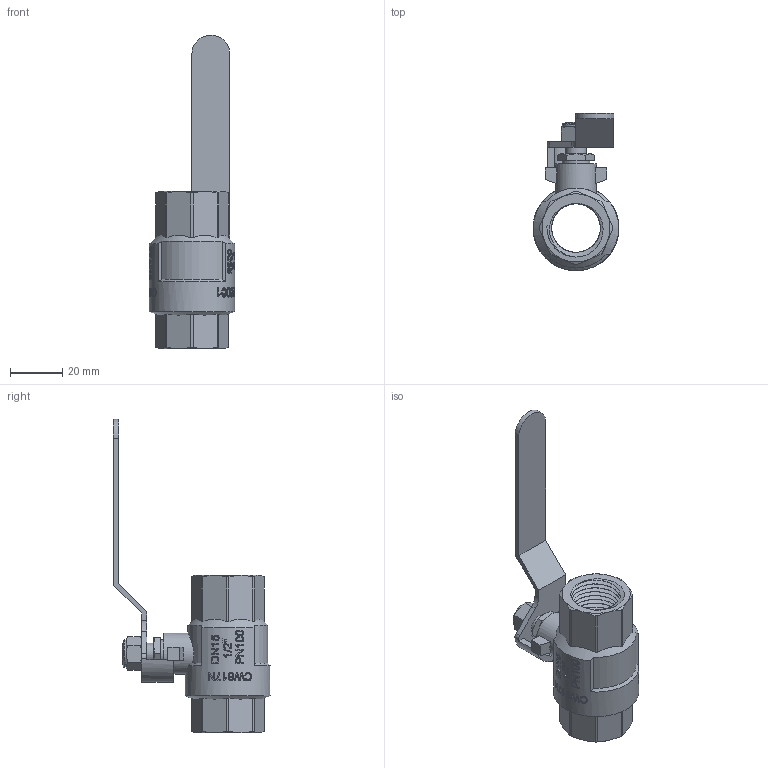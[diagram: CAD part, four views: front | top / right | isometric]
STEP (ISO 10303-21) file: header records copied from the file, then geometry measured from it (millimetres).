
FILE_DESCRIPTION(/* description */ (''),/* implementation_level */ '2;1');
FILE_NAME(/* name */ 'F:\Артём\00000\Работа удаленка\0\B\VT.314.N.04.stp',/* time_stamp */ '2021-02-03T15:56:29+03:00',/* author */ ('almis'),/* organization */ (''),/* preprocessor_version */ 'ST-DEVELOPER v18',/* originating_system */ 'Autodesk Inventor 2020',/* authorisation */ '');
FILE_SCHEMA (('AUTOMOTIVE_DESIGN { 1 0 10303 214 3 1 1 }'));
Length unit declared in the file: millimetre
Products named in the file (1): VT.314_ВВ_1%2
Bounding box: 32.7 x 59.89 x 119.54 mm (x, y, z)
Volume: 30228.5 mm3; surface area: 17696.7 mm2
Topology: 1 solids, 1 shells, 593 faces, 1580 edges, 1044 vertices
Faces by surface type: bspline 231, plane 211, cylinder 120, cone 28, torus 3
Full cylindrical faces by diameter (mm): 7.923 x1, 8 x1, 10.392 x1, 10.535 x1, 15.676 x1, 18.6 x15, 22.2 x16, 32.5 x1
Entity records: 28267 total; most frequent: CARTESIAN_POINT 15150, ORIENTED_EDGE 3160, DIRECTION 1959, EDGE_CURVE 1580, VERTEX_POINT 1044, LINE 695, VECTOR 695, EDGE_LOOP 652
